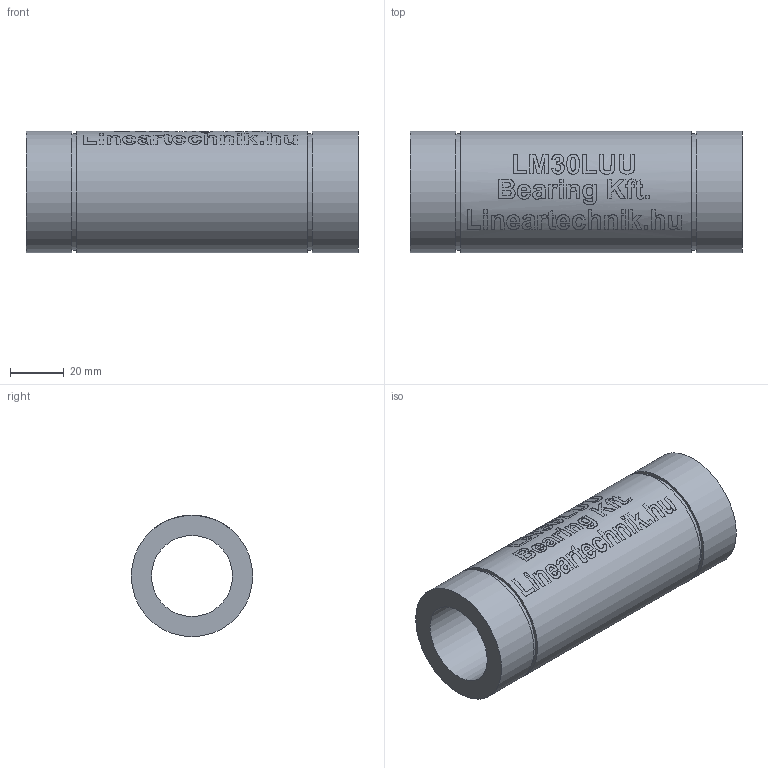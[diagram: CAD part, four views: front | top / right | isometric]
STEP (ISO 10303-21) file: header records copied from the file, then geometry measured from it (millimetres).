
FILE_DESCRIPTION(/* description */ (''),/* implementation_level */ '2;1');
FILE_NAME(/* name */ 'LM30LUU',/* time_stamp */ '2019-05-16T09:38:39+02:00',/* author */ ('VĂ©gh MĂˇtĂ©'),/* organization */ ('Bearing Kft'),/* preprocessor_version */ 'ST-DEVELOPER v16.7',/* originating_system */ 'DEX',/* authorisation */ $);
FILE_SCHEMA (('AUTOMOTIVE_DESIGN {1 0 10303 214 3 1 1}'));
Length unit declared in the file: millimetre
Products named in the file (1): LM30LUU
Bounding box: 123 x 45 x 45 mm (x, y, z)
Volume: 108104.8 mm3; surface area: 31374.4 mm2
Topology: 1 solids, 1 shells, 308 faces, 800 edges, 534 vertices
Faces by surface type: plane 157, bspline 97, cylinder 54
Full cylindrical faces by diameter (mm): 30 x1, 43 x2, 45 x3
Entity records: 23192 total; most frequent: CARTESIAN_POINT 16420, ORIENTED_EDGE 1506, DIRECTION 1112, EDGE_CURVE 753, VERTEX_POINT 508, LINE 408, VECTOR 408, EDGE_LOOP 367
